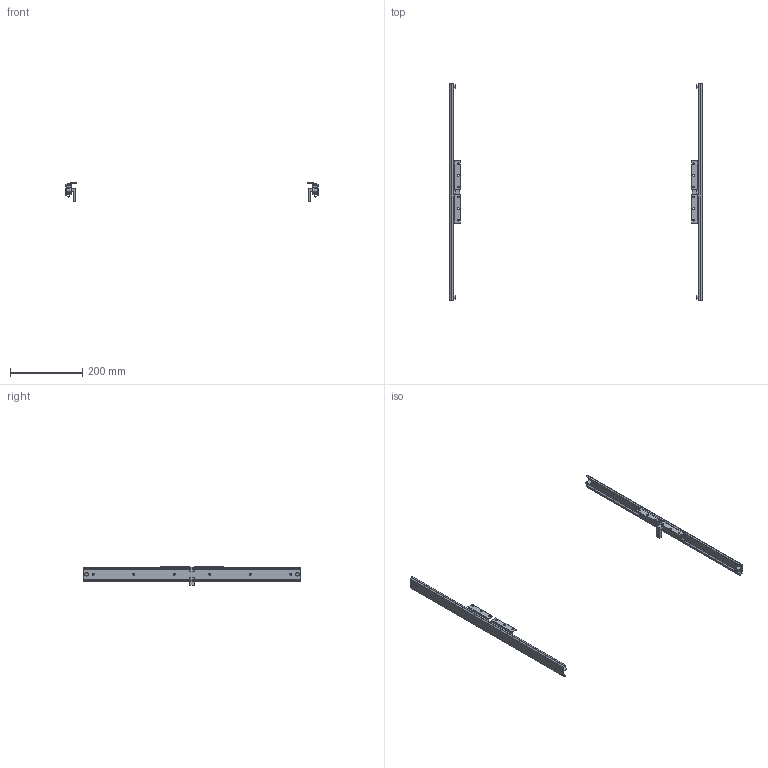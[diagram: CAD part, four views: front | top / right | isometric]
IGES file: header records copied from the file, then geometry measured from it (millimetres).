
Start section: Data from Parasolid IGES Translator 15.0.47, Copyright(c) 2006 Siemens P LM Software. All Rights Reserved.
Global section: file name: 9133036.igs; native system:  By UGS Corp.; preprocessor: XPlus GENERIC/IGES 3.0; author: Noname; organization: Noname; date: 20140620.121709; units: millimetre
Bounding box: 700 x 600 x 51.9 mm (x, y, z)
Surface area: 175824.2 mm2 (no closed solid volume)
Topology: 0 solids, 0 shells, 188 faces, 1064 edges, 1008 vertices
Faces by surface type: extrusion 144, revolution 44
